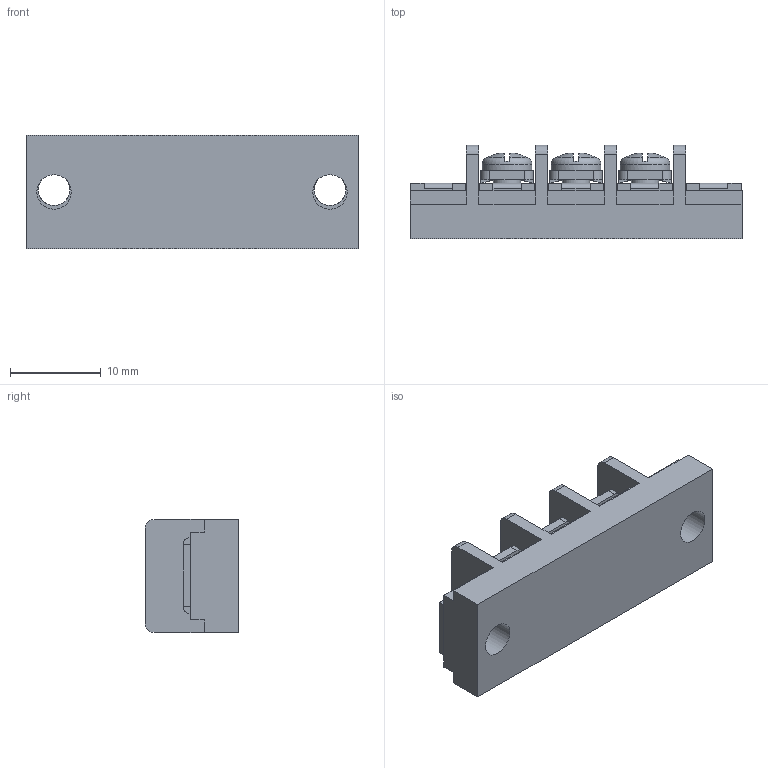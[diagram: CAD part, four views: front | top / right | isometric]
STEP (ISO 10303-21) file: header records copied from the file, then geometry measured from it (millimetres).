
FILE_DESCRIPTION(/* description */ ('Alibre Inc.'),/* implementation_level */ '2;1');
FILE_NAME(/* name */ 'export0',/* time_stamp */ '2015-10-26T18:09:21+09:00',/* author */ (''),/* organization */ (''),/* preprocessor_version */ 'ST-DEVELOPER v14',/* originating_system */ 'Alibre',/* authorisation */ '');
FILE_SCHEMA (('CONFIG_CONTROL_DESIGN'));
Length unit declared in the file: centimetre
Products named in the file (1): ID_1
Bounding box: 36.68 x 10.3 x 12.5 mm (x, y, z)
Volume: 2936.8 mm3; surface area: 2707.6 mm2
Topology: 1 solids, 17 shells, 715 faces, 1919 edges, 1269 vertices
Faces by surface type: plane 544, bspline 104, cylinder 43, cone 12, torus 6, sphere 6
Full cylindrical faces by diameter (mm): 3 x3, 3.5 x2, 3.8 x2, 5.5 x3
Entity records: 21338 total; most frequent: CARTESIAN_POINT 4990, ORIENTED_EDGE 3774, DIRECTION 2402, EDGE_CURVE 1887, VECTOR 1406, LINE 1406, VERTEX_POINT 1253, EDGE_LOOP 774
